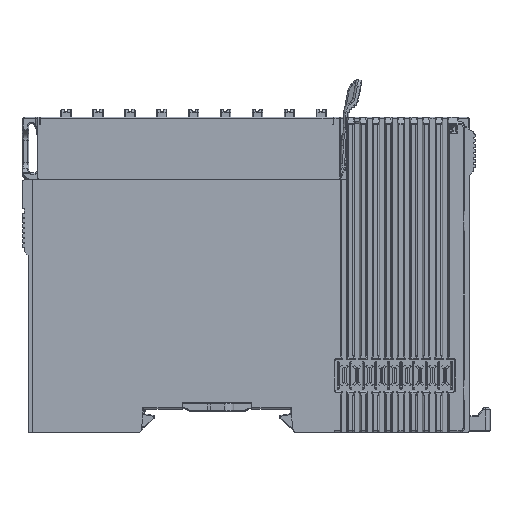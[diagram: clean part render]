
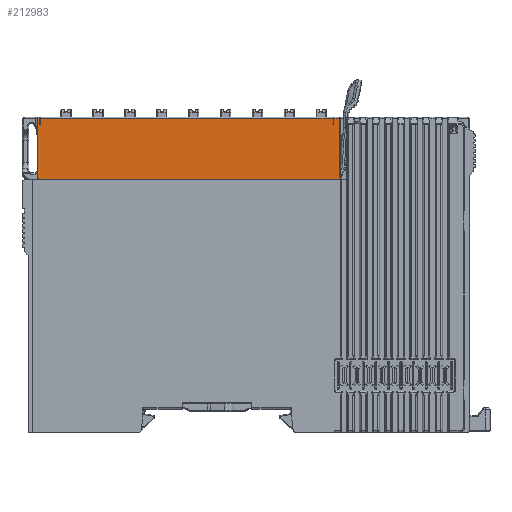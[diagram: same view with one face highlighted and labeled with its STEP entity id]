
A CAD part, top view. The second image highlights one B-rep face of the part: STEP entity #212983.
In plain terms, the highlighted planar face has unit normal (0, 0, 1).
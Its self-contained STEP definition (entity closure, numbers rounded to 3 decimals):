
#169761=DIRECTION('',(0.,-1.,0.));
#169762=VECTOR('',#169761,1.6);
#169763=CARTESIAN_POINT('',(-0.25,13.8,5.85));
#169764=LINE('',#169763,#169762);
#169765=DIRECTION('',(-1.,0.,0.));
#169766=VECTOR('',#169765,0.2);
#169767=CARTESIAN_POINT('',(-0.25,12.2,5.85));
#169768=LINE('',#169767,#169766);
#169773=CARTESIAN_POINT('',(69.25,12.4,5.85));
#169774=DIRECTION('',(0.,0.,-1.));
#169775=DIRECTION('',(1.,0.,0.));
#169776=AXIS2_PLACEMENT_3D('',#169773,#169774,#169775);
#169778=CARTESIAN_POINT('',(-0.55,-0.2,5.85));
#169779=DIRECTION('',(0.,0.,-1.));
#169780=DIRECTION('',(0.,-1.,0.));
#169781=AXIS2_PLACEMENT_3D('',#169778,#169779,#169780);
#169783=DIRECTION('',(0.,-1.,0.));
#169784=VECTOR('',#169783,1.4);
#169785=CARTESIAN_POINT('',(69.45,13.8,5.85));
#169786=LINE('',#169785,#169784);
#170463=DIRECTION('',(-1.,0.,0.));
#170464=VECTOR('',#170463,69.7);
#170465=CARTESIAN_POINT('',(69.45,13.8,5.85));
#170466=LINE('',#170465,#170464);
#187170=DIRECTION('',(1.,0.,0.));
#187171=VECTOR('',#187170,71.55);
#187172=CARTESIAN_POINT('',(-0.55,-0.7,5.85));
#187173=LINE('',#187172,#187171);
#187383=DIRECTION('',(0.,1.,0.));
#187384=VECTOR('',#187383,1.6);
#187385=CARTESIAN_POINT('',(-0.45,12.2,5.85));
#187386=LINE('',#187385,#187384);
#187405=DIRECTION('',(-1.,0.,0.));
#187406=VECTOR('',#187405,0.4);
#187407=CARTESIAN_POINT('',(-0.45,13.8,5.85));
#187408=LINE('',#187407,#187406);
#187424=DIRECTION('',(0.,-1.,0.));
#187425=VECTOR('',#187424,14.4);
#187426=CARTESIAN_POINT('',(-0.85,13.8,5.85));
#187427=LINE('',#187426,#187425);
#188901=DIRECTION('',(0.,1.,0.));
#188902=VECTOR('',#188901,14.5);
#188903=CARTESIAN_POINT('',(71.,-0.7,5.85));
#188904=LINE('',#188903,#188902);
#188920=DIRECTION('',(-1.,0.,0.));
#188921=VECTOR('',#188920,1.35);
#188922=CARTESIAN_POINT('',(71.,13.8,5.85));
#188923=LINE('',#188922,#188921);
#188938=DIRECTION('',(0.,-1.,0.));
#188939=VECTOR('',#188938,1.6);
#188940=CARTESIAN_POINT('',(69.65,13.8,5.85));
#188941=LINE('',#188940,#188939);
#190906=DIRECTION('',(-1.,0.,0.));
#190907=VECTOR('',#190906,0.4);
#190908=CARTESIAN_POINT('',(69.65,12.2,5.85));
#190909=LINE('',#190908,#190907);
#203584=CARTESIAN_POINT('',(-0.25,12.2,5.85));
#203585=VERTEX_POINT('',#203584);
#203590=CARTESIAN_POINT('',(-0.25,13.8,5.85));
#203591=VERTEX_POINT('',#203590);
#204205=CARTESIAN_POINT('',(69.25,12.2,5.85));
#204207=VERTEX_POINT('',#204205);
#204210=CARTESIAN_POINT('',(69.65,12.2,5.85));
#204211=VERTEX_POINT('',#204210);
#204760=CARTESIAN_POINT('',(-0.45,12.2,5.85));
#204761=VERTEX_POINT('',#204760);
#205414=CARTESIAN_POINT('',(69.45,12.4,5.85));
#205415=VERTEX_POINT('',#205414);
#205416=CARTESIAN_POINT('',(69.45,13.8,5.85));
#205417=VERTEX_POINT('',#205416);
#205907=CARTESIAN_POINT('',(-0.55,-0.7,5.85));
#205908=VERTEX_POINT('',#205907);
#205909=CARTESIAN_POINT('',(71.,-0.7,5.85));
#205910=VERTEX_POINT('',#205909);
#209429=CARTESIAN_POINT('',(-0.45,13.8,5.85));
#209430=VERTEX_POINT('',#209429);
#209433=CARTESIAN_POINT('',(69.65,13.8,5.85));
#209434=VERTEX_POINT('',#209433);
#209435=CARTESIAN_POINT('',(71.,13.8,5.85));
#209436=VERTEX_POINT('',#209435);
#209437=CARTESIAN_POINT('',(-0.85,-0.6,5.85));
#209438=VERTEX_POINT('',#209437);
#209439=CARTESIAN_POINT('',(-0.85,13.8,5.85));
#209440=VERTEX_POINT('',#209439);
#212950=CARTESIAN_POINT('',(34.6,13.,5.85));
#212951=DIRECTION('',(0.,0.,1.));
#212952=DIRECTION('',(1.,0.,0.));
#212953=AXIS2_PLACEMENT_3D('',#212950,#212951,#212952);
#212954=PLANE('',#212953);
#212956=ORIENTED_EDGE('',*,*,#212955,.T.);
#212958=ORIENTED_EDGE('',*,*,#212957,.F.);
#212960=ORIENTED_EDGE('',*,*,#212959,.F.);
#212962=ORIENTED_EDGE('',*,*,#212961,.F.);
#212964=ORIENTED_EDGE('',*,*,#212963,.F.);
#212966=ORIENTED_EDGE('',*,*,#212965,.F.);
#212968=ORIENTED_EDGE('',*,*,#212967,.T.);
#212970=ORIENTED_EDGE('',*,*,#212969,.F.);
#212972=ORIENTED_EDGE('',*,*,#212971,.F.);
#212974=ORIENTED_EDGE('',*,*,#212973,.F.);
#212975=ORIENTED_EDGE('',*,*,#212935,.F.);
#212976=ORIENTED_EDGE('',*,*,#212917,.F.);
#212978=ORIENTED_EDGE('',*,*,#212977,.F.);
#212980=ORIENTED_EDGE('',*,*,#212979,.T.);
#212981=EDGE_LOOP('',(#212956,#212958,#212960,#212962,#212964,#212966,#212968,
#212970,#212972,#212974,#212975,#212976,#212978,#212980));
#212982=FACE_OUTER_BOUND('',#212981,.F.);
#169777=CIRCLE('',#169776,0.2);
#169782=CIRCLE('',#169781,0.5);
#212917=EDGE_CURVE('',#203591,#203585,#169764,.T.);
#212935=EDGE_CURVE('',#203585,#204761,#169768,.T.);
#212955=EDGE_CURVE('',#205415,#204207,#169777,.T.);
#212957=EDGE_CURVE('',#204211,#204207,#190909,.T.);
#212959=EDGE_CURVE('',#209434,#204211,#188941,.T.);
#212961=EDGE_CURVE('',#209436,#209434,#188923,.T.);
#212963=EDGE_CURVE('',#205910,#209436,#188904,.T.);
#212965=EDGE_CURVE('',#205908,#205910,#187173,.T.);
#212967=EDGE_CURVE('',#205908,#209438,#169782,.T.);
#212969=EDGE_CURVE('',#209440,#209438,#187427,.T.);
#212971=EDGE_CURVE('',#209430,#209440,#187408,.T.);
#212973=EDGE_CURVE('',#204761,#209430,#187386,.T.);
#212977=EDGE_CURVE('',#205417,#203591,#170466,.T.);
#212979=EDGE_CURVE('',#205417,#205415,#169786,.T.);
#212983=ADVANCED_FACE('',(#212982),#212954,.T.);
